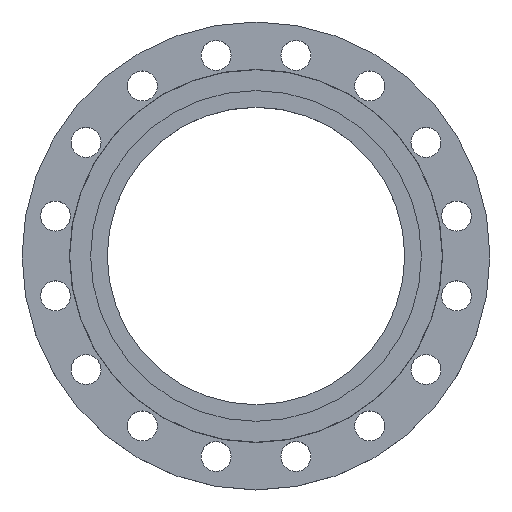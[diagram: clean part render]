
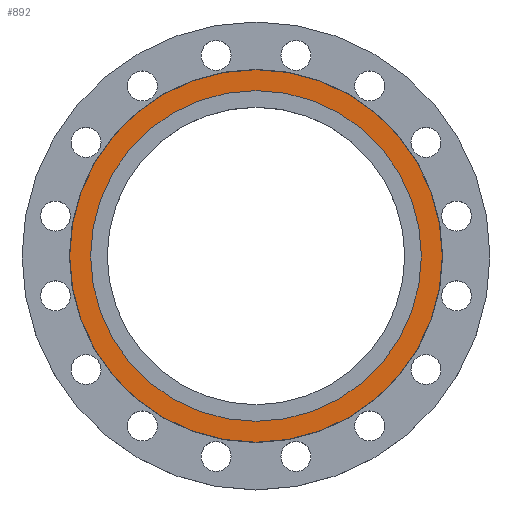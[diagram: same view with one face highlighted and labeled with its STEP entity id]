
A CAD part, top view. The second image highlights one B-rep face of the part: STEP entity #892.
In plain terms, the highlighted planar face has unit normal (0, 0, 1).
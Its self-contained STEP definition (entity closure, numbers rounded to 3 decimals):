
#3 = AXIS2_PLACEMENT_3D ( 'NONE', #878, #877, #875 ) ;
#28 = CIRCLE ( 'NONE', #3, 182. ) ;
#33 = EDGE_CURVE ( 'NONE', #1423, #1424, #986, .T. ) ;
#54 = DIRECTION ( 'NONE',  ( -1., 0., 0. ) ) ;
#58 = DIRECTION ( 'NONE',  ( 0., 0., -1. ) ) ;
#60 = CARTESIAN_POINT ( 'NONE',  ( 0., 0., 0. ) ) ;
#131 = AXIS2_PLACEMENT_3D ( 'NONE', #987, #985, #984 ) ;
#223 = CARTESIAN_POINT ( 'NONE',  ( -182., 0., 0. ) ) ;
#270 = DIRECTION ( 'NONE',  ( -1., 0., 0. ) ) ;
#271 = DIRECTION ( 'NONE',  ( 0., 0., -1. ) ) ;
#272 = CARTESIAN_POINT ( 'NONE',  ( 0., 0., 0. ) ) ;
#303 = CARTESIAN_POINT ( 'NONE',  ( -205., 0., 0. ) ) ;
#304 = CARTESIAN_POINT ( 'NONE',  ( 205., 0., 0. ) ) ;
#342 = EDGE_CURVE ( 'NONE', #1101, #1532, #28, .T. ) ;
#491 = CIRCLE ( 'NONE', #691, 182. ) ;
#530 = AXIS2_PLACEMENT_3D ( 'NONE', #735, #733, #732 ) ;
#620 = CARTESIAN_POINT ( 'NONE',  ( 182., 0., 0. ) ) ;
#691 = AXIS2_PLACEMENT_3D ( 'NONE', #272, #271, #270 ) ;
#732 = DIRECTION ( 'NONE',  ( 1., 0., 0. ) ) ;
#733 = DIRECTION ( 'NONE',  ( 0., 0., 1. ) ) ;
#735 = CARTESIAN_POINT ( 'NONE',  ( 0., 0., 0. ) ) ;
#736 = PLANE ( 'NONE',  #530 ) ;
#737 = FACE_BOUND ( 'NONE', #1015, .T. ) ;
#738 = FACE_OUTER_BOUND ( 'NONE', #1278, .T. ) ;
#875 = DIRECTION ( 'NONE',  ( -1., 0., 0. ) ) ;
#877 = DIRECTION ( 'NONE',  ( 0., 0., -1. ) ) ;
#878 = CARTESIAN_POINT ( 'NONE',  ( 0., 0., 0. ) ) ;
#892 = ADVANCED_FACE ( 'NONE', ( #738, #737 ), #736, .T. ) ;
#984 = DIRECTION ( 'NONE',  ( -1., 0., 0. ) ) ;
#985 = DIRECTION ( 'NONE',  ( 0., 0., -1. ) ) ;
#986 = CIRCLE ( 'NONE', #131, 205. ) ;
#987 = CARTESIAN_POINT ( 'NONE',  ( 0., 0., 0. ) ) ;
#1015 = EDGE_LOOP ( 'NONE', ( #1198, #1202 ) ) ;
#1101 = VERTEX_POINT ( 'NONE', #620 ) ;
#1161 = ORIENTED_EDGE ( 'NONE', *, *, #33, .F. ) ;
#1198 = ORIENTED_EDGE ( 'NONE', *, *, #1477, .T. ) ;
#1202 = ORIENTED_EDGE ( 'NONE', *, *, #342, .T. ) ;
#1278 = EDGE_LOOP ( 'NONE', ( #1329, #1161 ) ) ;
#1329 = ORIENTED_EDGE ( 'NONE', *, *, #1672, .F. ) ;
#1362 = AXIS2_PLACEMENT_3D ( 'NONE', #60, #58, #54 ) ;
#1366 = CIRCLE ( 'NONE', #1362, 205. ) ;
#1423 = VERTEX_POINT ( 'NONE', #304 ) ;
#1424 = VERTEX_POINT ( 'NONE', #303 ) ;
#1477 = EDGE_CURVE ( 'NONE', #1532, #1101, #491, .T. ) ;
#1532 = VERTEX_POINT ( 'NONE', #223 ) ;
#1672 = EDGE_CURVE ( 'NONE', #1424, #1423, #1366, .T. ) ;
